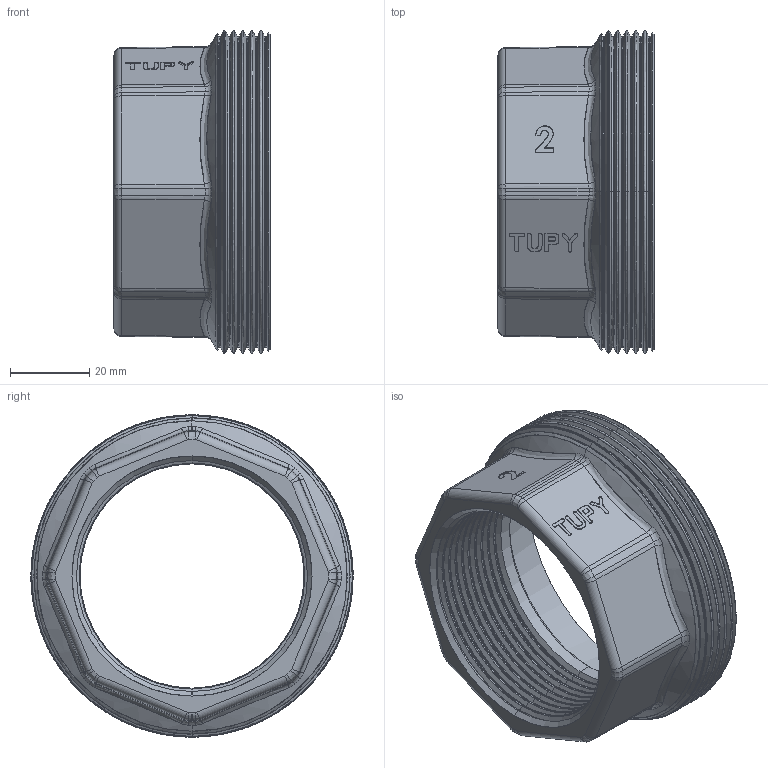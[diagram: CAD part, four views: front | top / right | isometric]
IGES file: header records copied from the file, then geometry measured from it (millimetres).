
Start section: SolidWorks IGES file using analytic representation for surfaces
Global section: file name: C:\Users\alan.martins\Desktop\Nova pasta\12-77-010.IGS; native system: SolidWorks 2012; preprocessor: SolidWorks 2012; author: alan.martins; date: 160323.151648; units: millimetre
Bounding box: 39.5 x 81.5 x 81.5 mm (x, y, z)
Surface area: 25355.7 mm2 (no closed solid volume)
Topology: 0 solids, 0 shells, 358 faces, 2123 edges, 2123 vertices
Faces by surface type: bspline 263, revolution 95
